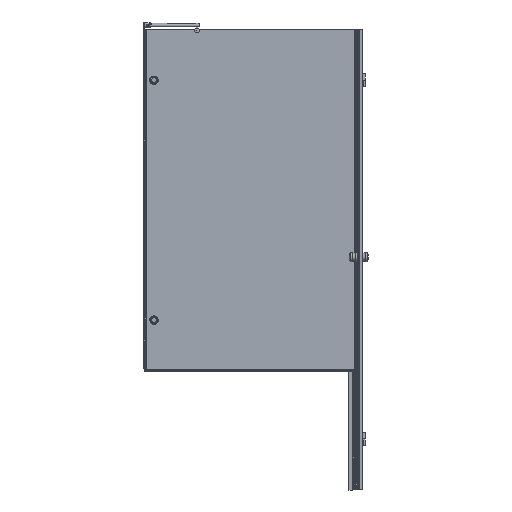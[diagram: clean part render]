
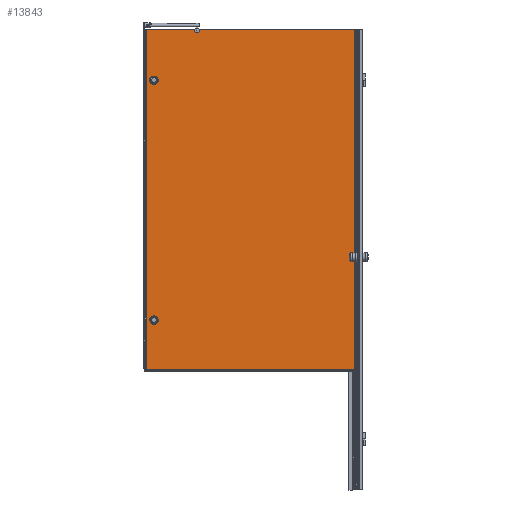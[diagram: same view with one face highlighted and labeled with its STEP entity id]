
A CAD part, left-side view. The second image highlights one B-rep face of the part: STEP entity #13843.
In plain terms, the highlighted planar face has unit normal (-1, 0, 0).
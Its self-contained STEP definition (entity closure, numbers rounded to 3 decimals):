
#531=LINE($,#20386,#1905);
#1228=LINE($,#22570,#2602);
#1259=LINE($,#22663,#2633);
#1328=LINE($,#22952,#2702);
#1329=LINE($,#22954,#2703);
#1330=LINE($,#22956,#2704);
#1331=LINE($,#22958,#2705);
#1332=LINE($,#22960,#2706);
#1333=LINE($,#22962,#2707);
#1334=LINE($,#22963,#2708);
#1335=LINE($,#22964,#2709);
#1905=VECTOR($,#16329,642.066);
#2602=VECTOR($,#17998,863.3);
#2633=VECTOR($,#18089,1410.);
#2702=VECTOR($,#18318,198.774);
#2703=VECTOR($,#18319,1400.);
#2704=VECTOR($,#18320,2.257);
#2705=VECTOR($,#18321,1400.);
#2706=VECTOR($,#18322,2.443);
#2707=VECTOR($,#18323,1400.);
#2708=VECTOR($,#18324,10.);
#2709=VECTOR($,#18325,0.1);
#2960=FACE_BOUND($,#4553,.T.);
#2961=FACE_BOUND($,#4554,.T.);
#2962=FACE_BOUND($,#4555,.T.);
#4553=EDGE_LOOP($,(#11414));
#4554=EDGE_LOOP($,(#11415));
#4555=EDGE_LOOP($,(#11416,#11417,#11418,#11419,#11420,#11421,#11422,#11423,
#11424,#11425,#11426,#11427));
#4713=CIRCLE($,#14028,15.);
#4738=CIRCLE($,#14082,15.);
#4821=CIRCLE($,#14324,10.);
#5171=VERTEX_POINT($,#19062);
#5226=VERTEX_POINT($,#19279);
#5493=VERTEX_POINT($,#20140);
#5494=VERTEX_POINT($,#20141);
#5531=VERTEX_POINT($,#20385);
#6143=VERTEX_POINT($,#22551);
#6145=VERTEX_POINT($,#22564);
#6168=VERTEX_POINT($,#22662);
#6214=VERTEX_POINT($,#22951);
#6215=VERTEX_POINT($,#22953);
#6216=VERTEX_POINT($,#22955);
#6217=VERTEX_POINT($,#22957);
#6218=VERTEX_POINT($,#22959);
#6219=VERTEX_POINT($,#22961);
#6416=EDGE_CURVE($,#5171,#5171,#4713,.T.);
#6491=EDGE_CURVE($,#5226,#5226,#4738,.T.);
#6890=EDGE_CURVE($,#5493,#5494,#4821,.T.);
#6935=EDGE_CURVE($,#5531,#5493,#531,.T.);
#7853=EDGE_CURVE($,#6143,#6145,#1228,.T.);
#7898=EDGE_CURVE($,#5531,#6168,#1259,.T.);
#8000=EDGE_CURVE($,#5494,#6214,#1328,.T.);
#8001=EDGE_CURVE($,#6214,#6215,#1329,.T.);
#8002=EDGE_CURVE($,#6215,#6216,#1330,.T.);
#8003=EDGE_CURVE($,#6216,#6217,#1331,.T.);
#8004=EDGE_CURVE($,#6217,#6218,#1332,.T.);
#8005=EDGE_CURVE($,#6218,#6219,#1333,.T.);
#8006=EDGE_CURVE($,#6219,#6145,#1334,.T.);
#8007=EDGE_CURVE($,#6168,#6143,#1335,.T.);
#11414=ORIENTED_EDGE($,*,*,#6416,.T.);
#11415=ORIENTED_EDGE($,*,*,#6491,.T.);
#11416=ORIENTED_EDGE($,*,*,#6890,.T.);
#11417=ORIENTED_EDGE($,*,*,#8000,.T.);
#11418=ORIENTED_EDGE($,*,*,#8001,.T.);
#11419=ORIENTED_EDGE($,*,*,#8002,.T.);
#11420=ORIENTED_EDGE($,*,*,#8003,.T.);
#11421=ORIENTED_EDGE($,*,*,#8004,.T.);
#11422=ORIENTED_EDGE($,*,*,#8005,.T.);
#11423=ORIENTED_EDGE($,*,*,#8006,.T.);
#11424=ORIENTED_EDGE($,*,*,#7853,.F.);
#11425=ORIENTED_EDGE($,*,*,#8007,.F.);
#11426=ORIENTED_EDGE($,*,*,#7898,.F.);
#11427=ORIENTED_EDGE($,*,*,#6935,.T.);
#12446=PLANE($,#14945);
#13843=ADVANCED_FACE($,(#2960,#2961,#2962),#12446,.T.);
#14028=AXIS2_PLACEMENT_3D($,#19063,#15300,#15301);
#14082=AXIS2_PLACEMENT_3D($,#19280,#15456,#15457);
#14324=AXIS2_PLACEMENT_3D($,#20142,#16252,#16253);
#14945=AXIS2_PLACEMENT_3D($,#22950,#18316,#18317);
#15300=DIRECTION('center_axis',(1.,0.,0.));
#15301=DIRECTION('ref_axis',(0.,-1.,0.));
#15456=DIRECTION('center_axis',(1.,0.,0.));
#15457=DIRECTION('ref_axis',(0.,-1.,0.));
#16252=DIRECTION('center_axis',(1.,0.,0.));
#16253=DIRECTION('ref_axis',(0.,0.597,0.802));
#16329=DIRECTION($,(0.,1.,0.));
#17998=DIRECTION($,(0.,1.,0.));
#18089=DIRECTION($,(0.,0.,-1.));
#18316=DIRECTION('center_axis',(-1.,0.,0.));
#18317=DIRECTION('ref_axis',(0.,1.,0.));
#18318=DIRECTION($,(0.,1.,0.));
#18319=DIRECTION($,(0.,0.,-1.));
#18320=DIRECTION($,(0.,1.,0.));
#18321=DIRECTION($,(0.,0.,1.));
#18322=DIRECTION($,(0.,1.,0.));
#18323=DIRECTION($,(0.,0.,-1.));
#18324=DIRECTION($,(0.,0.,-1.));
#18325=DIRECTION($,(0.,1.,0.));
#19062=CARTESIAN_POINT('',(1212.162,818.956,1175.944));
#19063=CARTESIAN_POINT('Origin',(1212.162,803.956,1175.944));
#19279=CARTESIAN_POINT('',(1212.162,818.956,185.944));
#19280=CARTESIAN_POINT('Origin',(1212.162,803.956,185.944));
#20140=CARTESIAN_POINT('',(1212.162,617.622,1385.944));
#20141=CARTESIAN_POINT('',(1212.162,635.482,1385.944));
#20142=CARTESIAN_POINT('Origin',(1212.162,626.552,1381.444));
#20385=CARTESIAN_POINT('',(1212.162,-24.444,1385.944));
#20386=CARTESIAN_POINT($,(1212.162,-29.044,1385.944));
#22551=CARTESIAN_POINT('',(1212.162,-24.344,-24.056));
#22564=CARTESIAN_POINT('',(1212.162,838.956,-24.056));
#22570=CARTESIAN_POINT($,(1212.162,-29.044,-24.056));
#22662=CARTESIAN_POINT('',(1212.162,-24.444,-24.056));
#22663=CARTESIAN_POINT($,(1212.162,-24.444,1385.944));
#22950=CARTESIAN_POINT('Origin',(1212.162,-29.044,1385.944));
#22951=CARTESIAN_POINT('',(1212.162,834.256,1385.944));
#22952=CARTESIAN_POINT($,(1212.162,-29.044,1385.944));
#22953=CARTESIAN_POINT('',(1212.162,834.256,-14.056));
#22954=CARTESIAN_POINT($,(1212.162,834.256,685.944));
#22955=CARTESIAN_POINT('',(1212.162,836.513,-14.056));
#22956=CARTESIAN_POINT($,(1212.162,404.353,-14.056));
#22957=CARTESIAN_POINT('',(1212.162,836.513,1385.944));
#22958=CARTESIAN_POINT($,(1212.162,836.513,685.944));
#22959=CARTESIAN_POINT('',(1212.162,838.956,1385.944));
#22960=CARTESIAN_POINT($,(1212.162,-29.044,1385.944));
#22961=CARTESIAN_POINT('',(1212.162,838.956,-14.056));
#22962=CARTESIAN_POINT($,(1212.162,838.956,1385.944));
#22963=CARTESIAN_POINT($,(1212.162,838.956,1385.944));
#22964=CARTESIAN_POINT($,(1212.162,-29.044,-24.056));
